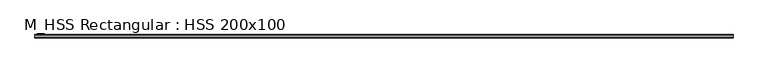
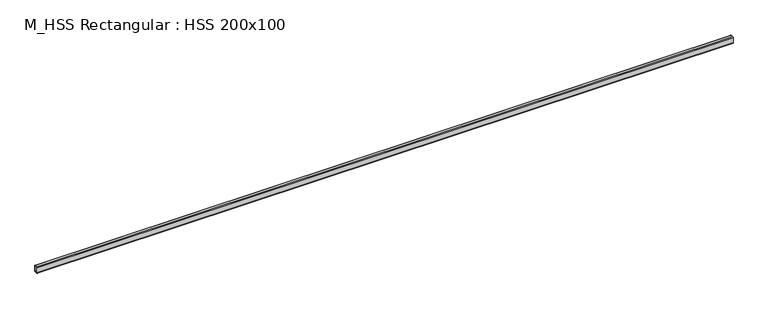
"""IFC4 building model written with IfcOpenShell, lengths in millimetres: beam geometry, M_HSS Rectangular : HSS 200x100."""

from ifc_helpers import new_model, si_unit, point, frame, frame_2d, origin, place, context, project, spatial, polyline, circle_curve, trimmed, segment, composite_curve, outline, extrude, source, transform, mapped, element, save


def m_hss_rectangular_hss_200x100_f20de42e(model_context):
    return source(origin(), model_context, "Body", "SweptSolid", [
        extrude(outline(composite_curve([segment(trimmed(circle_curve(frame_2d((-30.94, 80.94)), 19.06), [point((-50.0, 80.94))], [point((-30.94, 100.0))], False, "CARTESIAN"), True, "CONTINUOUS"), segment(polyline([(-30.94, 100.0), (30.94, 100.0)]), True, "CONTINUOUS"), segment(trimmed(circle_curve(frame_2d((30.94, 80.94)), 19.06), [point((30.94, 100.0))], [point((50.0, 80.94))], False, "CARTESIAN"), True, "CONTINUOUS"), segment(polyline([(50.0, 80.94), (50.0, -80.94)]), True, "CONTINUOUS"), segment(trimmed(circle_curve(frame_2d((30.94, -80.94)), 19.06), [point((50.0, -80.94))], [point((30.94, -100.0))], False, "CARTESIAN"), True, "CONTINUOUS"), segment(polyline([(30.94, -100.0), (-30.94, -100.0)]), True, "CONTINUOUS"), segment(trimmed(circle_curve(frame_2d((-30.94, -80.94)), 19.06), [point((-30.94, -100.0))], [point((-50.0, -80.94))], False, "CARTESIAN"), True, "CONTINUOUS"), segment(polyline([(-50.0, -80.94), (-50.0, 80.94)]), True, "CONTINUOUS")], self_intersect=False), holes=[composite_curve([segment(polyline([(30.94, 90.47), (-30.94, 90.47)]), True, "CONTINUOUS"), segment(trimmed(circle_curve(frame_2d((-30.94, 80.94)), 9.53), [point((-30.94, 90.47))], [point((-40.47, 80.94))], True, "CARTESIAN"), True, "CONTINUOUS"), segment(polyline([(-40.47, 80.94), (-40.47, -80.94)]), True, "CONTINUOUS"), segment(trimmed(circle_curve(frame_2d((-30.94, -80.94)), 9.53), [point((-40.47, -80.94))], [point((-30.94, -90.47))], True, "CARTESIAN"), True, "CONTINUOUS"), segment(polyline([(-30.94, -90.47), (30.94, -90.47)]), True, "CONTINUOUS"), segment(trimmed(circle_curve(frame_2d((30.94, -80.94)), 9.53), [point((30.94, -90.47))], [point((40.47, -80.94))], True, "CARTESIAN"), True, "CONTINUOUS"), segment(polyline([(40.47, -80.94), (40.47, 80.94)]), True, "CONTINUOUS"), segment(trimmed(circle_curve(frame_2d((30.94, 80.94)), 9.53), [point((40.47, 80.94))], [point((30.94, 90.47))], True, "CARTESIAN"), True, "CONTINUOUS")], self_intersect=False)]), frame((-9912.4, 0.0, 0.0), z_axis=(1.0, 0.0, 0.0), x_axis=(0.0, 1.0, 0.0)), (0.0, 0.0, 1.0), 19837.5),
    ])


if __name__ == "__main__":
    model = new_model("IFC4")
    model_context = context("Model", 3, world=origin())
    ifc_project = project(units=[si_unit("LENGTHUNIT", "METRE", prefix="MILLI")], contexts=[model_context])
    site = spatial("IfcSite", under=ifc_project)
    building = spatial("IfcBuilding", under=site)
    placement = place(None, origin())
    m_hss_rectangular_hss_200x100_shape = m_hss_rectangular_hss_200x100_f20de42e(model_context)
    element("IfcBeam", 1, ObjectType="M_HSS Rectangular : HSS 200x100", at=placement, inside=building, context=model_context, shape_type="MappedRepresentation", body=[
        mapped(m_hss_rectangular_hss_200x100_shape, transform((0.0, 0.0, 0.0), x_axis=(1.0, 0.0, 0.0), y_axis=(0.0, 1.0, 0.0), z_axis=(0.0, 0.0, 1.0))),
    ])
    save(model, "model.ifc")
